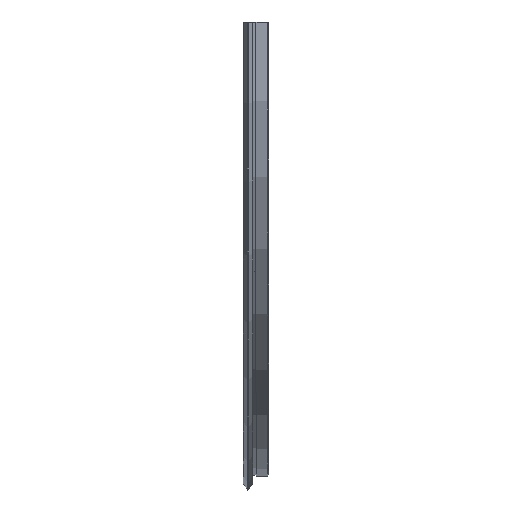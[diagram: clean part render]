
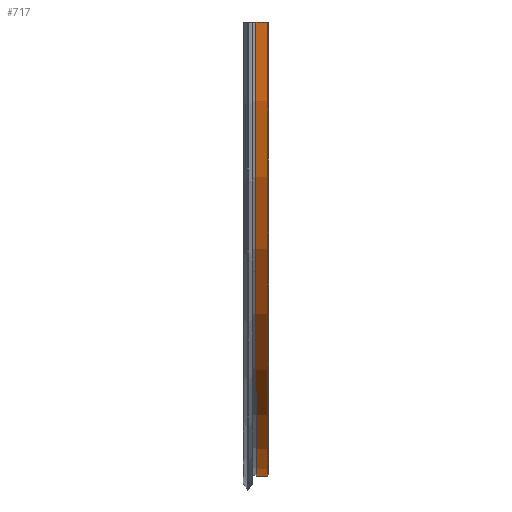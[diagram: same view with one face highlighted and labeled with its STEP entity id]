
A CAD part, left-side view. The second image highlights one B-rep face of the part: STEP entity #717.
In plain terms, the highlighted cylindrical face has radius 424 mm (diameter 848 mm), a partial arc.
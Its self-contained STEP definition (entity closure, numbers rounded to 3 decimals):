
#717 = ADVANCED_FACE( '', ( #2441 ), #2442, .T. );
#2441 = FACE_OUTER_BOUND( '', #4554, .T. );
#2442 = CYLINDRICAL_SURFACE( '', #4555, 424. );
#4554 = EDGE_LOOP( '', ( #11762, #11763, #11764, #11765 ) );
#4555 = AXIS2_PLACEMENT_3D( '', #11766, #11767, #11768 );
#11762 = ORIENTED_EDGE( '', *, *, #16480, .F. );
#11763 = ORIENTED_EDGE( '', *, *, #17340, .T. );
#11764 = ORIENTED_EDGE( '', *, *, #17338, .T. );
#11765 = ORIENTED_EDGE( '', *, *, #16473, .T. );
#11766 = CARTESIAN_POINT( '', ( 0., 0., 0. ) );
#11767 = DIRECTION( '', ( 0., 1., 0. ) );
#11768 = DIRECTION( '', ( 0., 0., -1. ) );
#16473 = EDGE_CURVE( '', #21483, #21481, #21484, .T. );
#16480 = EDGE_CURVE( '', #21496, #21481, #21497, .T. );
#17338 = EDGE_CURVE( '', #22407, #21483, #22408, .T. );
#17340 = EDGE_CURVE( '', #21496, #22407, #22410, .F. );
#21481 = VERTEX_POINT( '', #29312 );
#21483 = VERTEX_POINT( '', #29317 );
#21484 = LINE( '', #29318, #29319 );
#21496 = VERTEX_POINT( '', #29349 );
#21497 = CIRCLE( '', #29350, 424. );
#22407 = VERTEX_POINT( '', #30289 );
#22408 = CIRCLE( '', #30290, 424. );
#22410 = LINE( '', #30293, #30294 );
#29312 = CARTESIAN_POINT( '', ( 423.995, 1., -2. ) );
#29317 = CARTESIAN_POINT( '', ( 423.995, 12., -2. ) );
#29318 = CARTESIAN_POINT( '', ( 423.995, 0., -2. ) );
#29319 = VECTOR( '', #32067, 1000. );
#29349 = CARTESIAN_POINT( '', ( -423.995, 1., -2. ) );
#29350 = AXIS2_PLACEMENT_3D( '', #32071, #32072, #32073 );
#30289 = CARTESIAN_POINT( '', ( -423.995, 12., -2. ) );
#30290 = AXIS2_PLACEMENT_3D( '', #34608, #34609, #34610 );
#30293 = CARTESIAN_POINT( '', ( -423.995, 0., -2. ) );
#30294 = VECTOR( '', #34612, 1000. );
#32067 = DIRECTION( '', ( 0., -1., 0. ) );
#32071 = CARTESIAN_POINT( '', ( 0., 1., 0. ) );
#32072 = DIRECTION( '', ( 0., -1., 0. ) );
#32073 = DIRECTION( '', ( 0., 0., -1. ) );
#34608 = CARTESIAN_POINT( '', ( 0., 12., 0. ) );
#34609 = DIRECTION( '', ( 0., -1., 0. ) );
#34610 = DIRECTION( '', ( 0., 0., -1. ) );
#34612 = DIRECTION( '', ( 0., -1., 0. ) );
